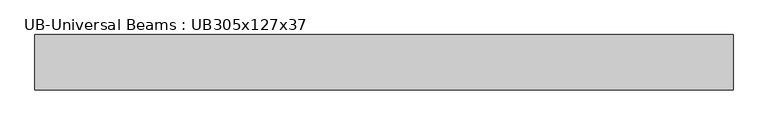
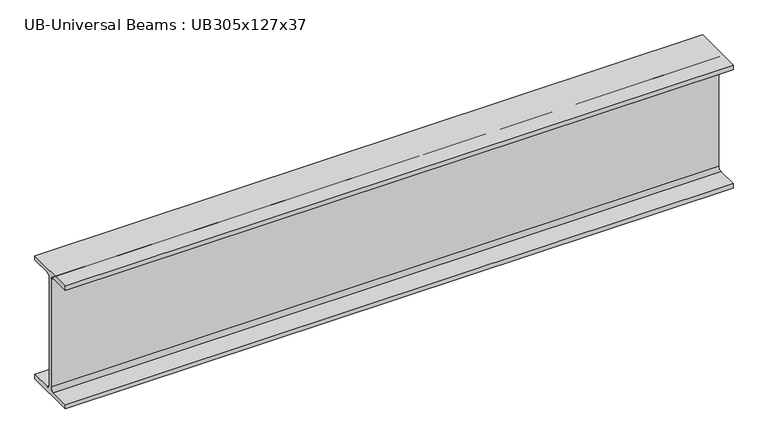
"""IFC4 building model written with IfcOpenShell, lengths in millimetres: beam geometry, UB-Universal Beams : UB305x127x37."""

from ifc_helpers import new_model, si_unit, point, frame, frame_2d, origin, place, context, project, spatial, polyline, circle_curve, trimmed, segment, composite_curve, outline, extrude, source, transform, mapped, element, save


def ub_universal_beams_ub305x127x37_a7926f5b(model_context):
    return source(origin(), model_context, "Body", "SweptSolid", [
        extrude(outline(composite_curve([segment(polyline([(61.7, -141.5), (61.7, -152.2), (-61.7, -152.2), (-61.7, -141.5), (-12.45, -141.5)]), True, "CONTINUOUS"), segment(trimmed(circle_curve(frame_2d((-12.45, -132.6)), 8.9), [point((-12.45, -141.5))], [point((-3.55, -132.6))], True, "CARTESIAN"), True, "CONTINUOUS"), segment(polyline([(-3.55, -132.6), (-3.55, 132.6)]), True, "CONTINUOUS"), segment(trimmed(circle_curve(frame_2d((-12.45, 132.6)), 8.9), [point((-3.55, 132.6))], [point((-12.45, 141.5))], True, "CARTESIAN"), True, "CONTINUOUS"), segment(polyline([(-12.45, 141.5), (-61.7, 141.5), (-61.7, 152.2), (61.7, 152.2), (61.7, 141.5), (12.45, 141.5)]), True, "CONTINUOUS"), segment(trimmed(circle_curve(frame_2d((12.45, 132.6)), 8.9), [point((12.45, 141.5))], [point((3.55, 132.6))], True, "CARTESIAN"), True, "CONTINUOUS"), segment(polyline([(3.55, 132.6), (3.55, -132.6)]), True, "CONTINUOUS"), segment(trimmed(circle_curve(frame_2d((12.45, -132.6)), 8.9), [point((3.55, -132.6))], [point((12.45, -141.5))], True, "CARTESIAN"), True, "CONTINUOUS"), segment(polyline([(12.45, -141.5), (61.7, -141.5)]), True, "CONTINUOUS")], self_intersect=False)), frame((-753.9, 0.0, 0.0), z_axis=(1.0, 0.0, 0.0), x_axis=(0.0, 1.0, 0.0)), (0.0, 0.0, 1.0), 1561.5),
    ])


if __name__ == "__main__":
    model = new_model("IFC4")
    model_context = context("Model", 3, world=origin())
    ifc_project = project(units=[si_unit("LENGTHUNIT", "METRE", prefix="MILLI")], contexts=[model_context])
    site = spatial("IfcSite", under=ifc_project)
    building = spatial("IfcBuilding", under=site)
    placement = place(None, origin())
    ub_universal_beams_ub305x127x37_shape = ub_universal_beams_ub305x127x37_a7926f5b(model_context)
    element("IfcBeam", 1, ObjectType="UB-Universal Beams : UB305x127x37", at=placement, inside=building, context=model_context, shape_type="MappedRepresentation", body=[
        mapped(ub_universal_beams_ub305x127x37_shape, transform((0.0, 0.0, 0.0), x_axis=(1.0, 0.0, 0.0), y_axis=(0.0, 1.0, 0.0), z_axis=(0.0, 0.0, 1.0))),
    ])
    save(model, "model.ifc")
